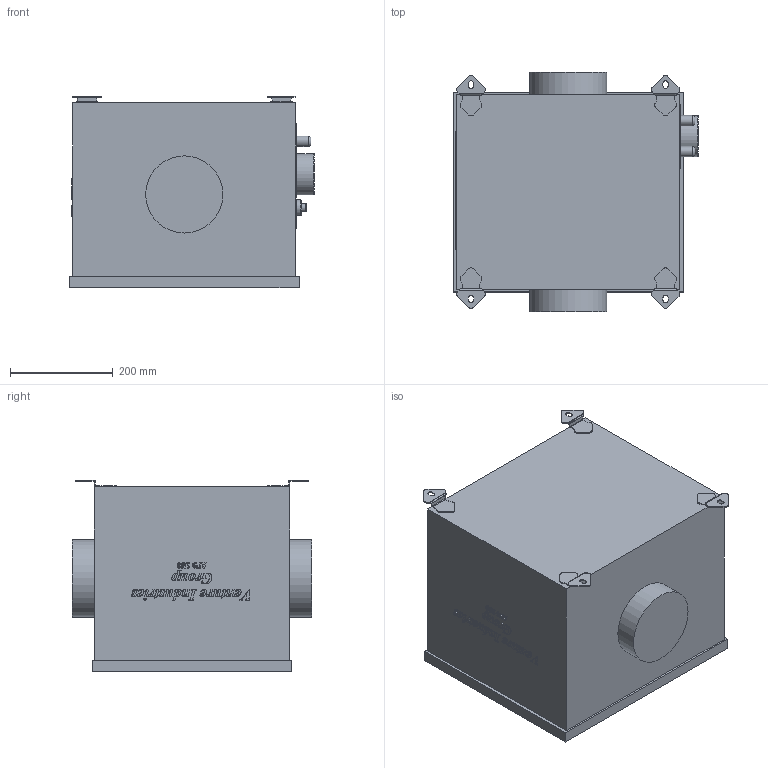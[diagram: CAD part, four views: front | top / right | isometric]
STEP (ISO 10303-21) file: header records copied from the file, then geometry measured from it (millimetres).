
FILE_DESCRIPTION(/* description */ (''),/* implementation_level */ '2;1');
FILE_NAME(/* name */ 'D:\Piotr - Dokumenty\Modele uproszczone\AFB\AFB 150_160\AFB_150.stp',/* time_stamp */ '2021-03-19T12:58:21+01:00',/* author */ ('Piotr.Nowotniak'),/* organization */ (''),/* preprocessor_version */ 'ST-DEVELOPER v18',/* originating_system */ 'Autodesk Inventor 2020',/* authorisation */ '');
FILE_SCHEMA (('AUTOMOTIVE_DESIGN { 1 0 10303 214 3 1 1 }'));
Length unit declared in the file: millimetre
Products named in the file (1): AFB_150
Bounding box: 476 x 465.8 x 372.46 mm (x, y, z)
Volume: 61238994.3 mm3; surface area: 1006153.9 mm2
Topology: 1 solids, 1 shells, 763 faces, 2107 edges, 1398 vertices
Faces by surface type: bspline 359, plane 316, cylinder 83, torus 5
Full cylindrical faces by diameter (mm): 15 x1, 20.2 x2, 30 x1, 80 x1, 150 x2
Entity records: 30354 total; most frequent: CARTESIAN_POINT 12912, ORIENTED_EDGE 4214, DIRECTION 2360, EDGE_CURVE 2107, VERTEX_POINT 1398, LINE 1228, VECTOR 1228, EDGE_LOOP 823
